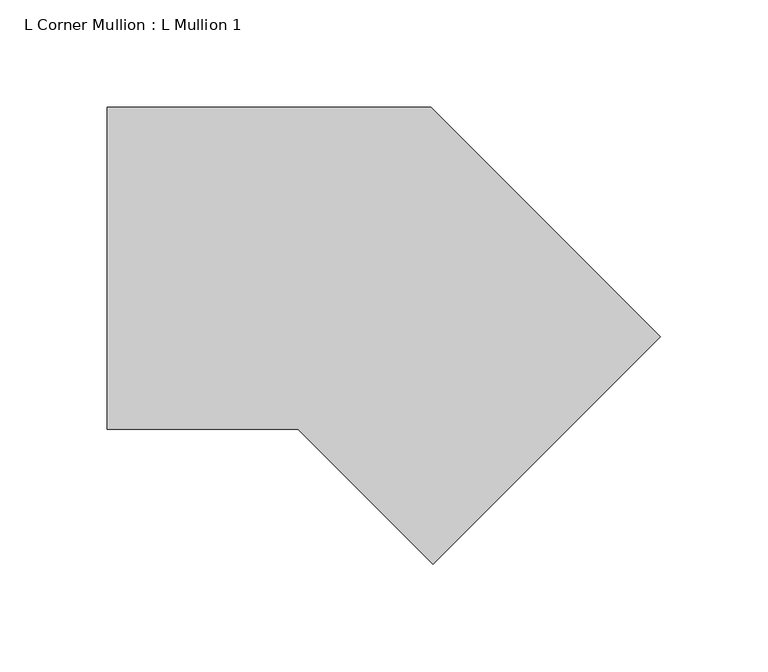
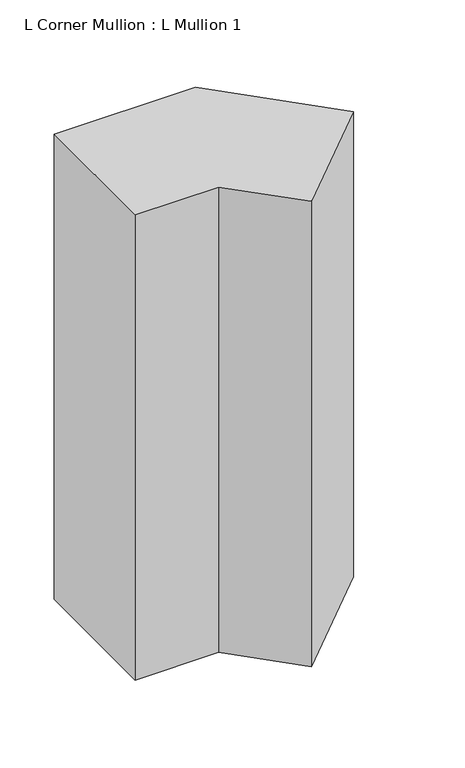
"""IFC4 building model written with IfcOpenShell, lengths in millimetres: member geometry, L Corner Mullion : L Mullion 1."""

import ifcopenshell
import ifcopenshell.guid

model = None  # the IFC model being written
_history = None  # IfcOwnerHistory: only IFC2X3 demands one
_inside = {}  # id of a spatial element -> (the spatial element, [elements in it])
_under = {}  # id of a project, library or spatial element -> (it, [spatial elements below it])
_declared = {}  # id of a project -> (the project, [libraries it declares])
_typed = {}  # id of a type object -> (the type object, [elements of that type])
_made_of = {}  # id of a material, layer set ... -> (it, [elements and type objects made of it])


def new_model(schema):
    """Start an empty IFC model of exactly this schema.

    Asked for "IFC4X3", IfcOpenShell would pick the latest addendum, in which some entities
    have other attributes; the version numbers below select the first issue.
    IFC2X3 requires an IfcOwnerHistory on every rooted entity: one is made here for all.
    """
    global model, _history
    if schema == "IFC4X3":
        model = ifcopenshell.file(schema_version=(4, 3, 0, 0))
    else:
        model = ifcopenshell.file(schema=schema)
    _inside.clear()
    _under.clear()
    _declared.clear()
    _typed.clear()
    _made_of.clear()
    _history = None
    if model.schema == "IFC2X3":
        org = make("IfcOrganization", Name="unknown")
        user = make(
            "IfcPersonAndOrganization",
            ThePerson=make("IfcPerson", FamilyName="unknown"),
            TheOrganization=org,
        )
        app = make(
            "IfcApplication",
            ApplicationDeveloper=org,
            Version="unknown",
            ApplicationFullName="unknown",
            ApplicationIdentifier="unknown",
        )
        _history = make(
            "IfcOwnerHistory",
            OwningUser=user,
            OwningApplication=app,
            ChangeAction="ADDED",
            CreationDate=0,
        )
    return model


def make(cls, **values):
    """One entity of the class cls with the attributes given. An attribute that is None is left unset."""
    return model.create_entity(
        cls, **{name: value for name, value in values.items() if value is not None}
    )


def rooted(cls, **values):
    """An entity with a GlobalId (a new one), such as an element, a storey or a relation."""
    return make(cls, GlobalId=ifcopenshell.guid.new(), OwnerHistory=_history, **values)


def si_unit(unit_type, name, prefix=None):
    """IfcSIUnit, for example si_unit("LENGTHUNIT", "METRE", prefix="MILLI")."""
    return make("IfcSIUnit", UnitType=unit_type, Prefix=prefix, Name=name)


def assignment(units):
    """IfcUnitAssignment: the units of a project."""
    return None if units is None else make("IfcUnitAssignment", Units=units)


def point(xyz):
    """IfcCartesianPoint."""
    return None if xyz is None else make("IfcCartesianPoint", Coordinates=xyz)


def direction(xyz):
    """IfcDirection."""
    return None if xyz is None else make("IfcDirection", DirectionRatios=xyz)


def frame(location, z_axis=None, x_axis=None):
    """IfcAxis2Placement3D, a coordinate frame: its origin and axes. An axis left out is left unset."""
    return make(
        "IfcAxis2Placement3D",
        Location=point(location),
        Axis=direction(z_axis),
        RefDirection=direction(x_axis),
    )


def origin():
    """The frame at (0, 0, 0) with its axes left unset."""
    return frame((0.0, 0.0, 0.0))


def place(relative_to, where):
    """IfcLocalPlacement: puts the frame where relative to a parent placement (None: the world)."""
    return make(
        "IfcLocalPlacement", PlacementRelTo=relative_to, RelativePlacement=where
    )


def context(
    kind, dimensions, precision=None, world=None, true_north=None, identifier=None
):
    """IfcGeometricRepresentationContext, for example the 3D "Model" context."""
    return make(
        "IfcGeometricRepresentationContext",
        ContextIdentifier=identifier,
        ContextType=kind,
        CoordinateSpaceDimension=dimensions,
        Precision=precision,
        WorldCoordinateSystem=world,
        TrueNorth=true_north,
    )


def project(units=None, contexts=None):
    """IfcProject with its units and contexts."""
    return rooted(
        "IfcProject",
        Name="project",
        RepresentationContexts=contexts,
        UnitsInContext=assignment(units),
    )


def spatial(cls, under=None, at=None, **own):
    """A site, building, storey or space (cls), placed at a placement, below another one or the project."""
    s = rooted(cls, ObjectPlacement=at, **own)
    if under is not None:
        _under.setdefault(under.id(), (under, []))[1].append(s)
    return s


def polyline(points):
    """IfcPolyline through the points."""
    return make("IfcPolyline", Points=[point(p) for p in points])


def outline(outer, holes=None, kind="AREA"):
    """IfcArbitraryClosedProfileDef: a profile drawn as a closed curve; with holes, ...WithVoids."""
    if holes is None:
        return make("IfcArbitraryClosedProfileDef", ProfileType=kind, OuterCurve=outer)
    return make(
        "IfcArbitraryProfileDefWithVoids",
        ProfileType=kind,
        OuterCurve=outer,
        InnerCurves=holes,
    )


def extrude(swept, where, along, depth):
    """IfcExtrudedAreaSolid: the profile swept, set in the frame where, extruded along a direction by depth."""
    return make(
        "IfcExtrudedAreaSolid",
        SweptArea=swept,
        Position=where,
        ExtrudedDirection=direction(along),
        Depth=depth,
    )


def shape(context_of_items, identifier, shape_type, items):
    """IfcShapeRepresentation: the items that make up one representation, for example the "Body"."""
    return make(
        "IfcShapeRepresentation",
        ContextOfItems=context_of_items,
        RepresentationIdentifier=identifier,
        RepresentationType=shape_type,
        Items=items,
    )


def source(mapping_origin, context_of_items, identifier, shape_type, items):
    """IfcRepresentationMap: a shape defined once, which mapped items show again and again."""
    return make(
        "IfcRepresentationMap",
        MappingOrigin=mapping_origin,
        MappedRepresentation=shape(context_of_items, identifier, shape_type, items),
    )


def transform(
    local_origin,
    x_axis=None,
    y_axis=None,
    z_axis=None,
    scale=None,
    scale2=None,
    scale3=None,
    uniform=True,
):
    """IfcCartesianTransformationOperator3D, or its non-uniform kind. x_axis, y_axis, z_axis: its Axis1, 2, 3."""
    if uniform:
        return make(
            "IfcCartesianTransformationOperator3D",
            Axis1=direction(x_axis),
            Axis2=direction(y_axis),
            LocalOrigin=point(local_origin),
            Scale=scale,
            Axis3=direction(z_axis),
        )
    return make(
        "IfcCartesianTransformationOperator3DnonUniform",
        Axis1=direction(x_axis),
        Axis2=direction(y_axis),
        LocalOrigin=point(local_origin),
        Scale=scale,
        Axis3=direction(z_axis),
        Scale2=scale2,
        Scale3=scale3,
    )


def mapped(mapping_source, mapping_target):
    """IfcMappedItem: shows the shape of a source again, moved by a transform."""
    return make(
        "IfcMappedItem", MappingSource=mapping_source, MappingTarget=mapping_target
    )


def made_of(thing, what):
    """Note that an element or type object is made of a material, layer set ...; save() writes the relation."""
    if what is not None:
        _made_of.setdefault(what.id(), (what, []))[1].append(thing)
    return thing


def element(
    cls,
    number,
    at=None,
    inside=None,
    cuts=None,
    type_object=None,
    material=None,
    context=None,
    identifier="Body",
    shape_type=None,
    held_by="IfcProductDefinitionShape",
    body=None,
    shapes=None,
    **own,
):
    """One element of the class cls, such as IfcWall. Its Tag is "e" and its number.

    at: its placement. inside: the storey or other place that contains it. cuts: it is an
    opening in that element (IfcRelVoidsElement). A single representation is given by context,
    identifier, shape_type and body (its items); several are given by shapes. held_by: the class
    of the entity that holds the representations. save() writes the other relations.
    """
    e = rooted(cls, Tag="e%d" % number, ObjectPlacement=at, **own)
    if body is not None:
        shapes = [shape(context, identifier, shape_type, body)]
    if shapes is not None:
        e.Representation = make(held_by, Representations=shapes)
    if inside is not None:
        _inside.setdefault(inside.id(), (inside, []))[1].append(e)
    if cuts is not None:
        rooted(
            "IfcRelVoidsElement", RelatingBuildingElement=cuts, RelatedOpeningElement=e
        )
    if type_object is not None:
        _typed.setdefault(type_object.id(), (type_object, []))[1].append(e)
    return made_of(e, material)


def aggregate(whole, parts):
    """IfcRelAggregates: a whole, such as a stair, and the parts it consists of."""
    return rooted("IfcRelAggregates", RelatingObject=whole, RelatedObjects=parts)


def save(model, path):
    """Write the relations noted so far, then the file.

    IfcRelAggregates (storeys below a building ...), IfcRelContainedInSpatialStructure (elements
    in a storey), IfcRelDefinesByType, IfcRelAssociatesMaterial and IfcRelDeclares: one each for
    every whole, place, type object, material and project.
    """
    for whole, parts in _under.values():
        aggregate(whole, parts)
    for where, things in _inside.values():
        rooted(
            "IfcRelContainedInSpatialStructure",
            RelatedElements=things,
            RelatingStructure=where,
        )
    for kind, things in _typed.values():
        rooted("IfcRelDefinesByType", RelatedObjects=things, RelatingType=kind)
    for what, things in _made_of.values():
        rooted("IfcRelAssociatesMaterial", RelatedObjects=things, RelatingMaterial=what)
    for by, libraries in _declared.values():
        rooted("IfcRelDeclares", RelatingContext=by, RelatedDefinitions=libraries)
    model.write(path)


def l_corner_mullion_l_mullion_1_e2d9d5b3(model_context):
    return source(origin(), model_context, "Body", "SweptSolid", [
        extrude(outline(polyline([(20.636039, -164.8858223), (-42.2497834, -102.0), (-131.1837662, -102.0), (-131.1837662, 48.0), (19.882251, 48.0), (126.7020561, -58.8198052), (20.636039, -164.8858223)])), frame((0.0, 0.0, -525.0), z_axis=(0.0, 0.0, 1.0), x_axis=(1.0, 0.0, 0.0)), (0.0, 0.0, 1.0), 525.0),
    ])


if __name__ == "__main__":
    model = new_model("IFC4")
    model_context = context("Model", 3, world=origin())
    ifc_project = project(units=[si_unit("LENGTHUNIT", "METRE", prefix="MILLI")], contexts=[model_context])
    site = spatial("IfcSite", under=ifc_project)
    building = spatial("IfcBuilding", under=site)
    placement = place(None, origin())
    l_corner_mullion_l_mullion_1_shape = l_corner_mullion_l_mullion_1_e2d9d5b3(model_context)
    element("IfcMember", 1, ObjectType="L Corner Mullion : L Mullion 1", at=placement, inside=building, context=model_context, shape_type="MappedRepresentation", body=[
        mapped(l_corner_mullion_l_mullion_1_shape, transform((0.0, 0.0, 0.0), x_axis=(1.0, 0.0, 0.0), y_axis=(0.0, 1.0, 0.0), z_axis=(0.0, 0.0, 1.0))),
    ])
    save(model, "model.ifc")
